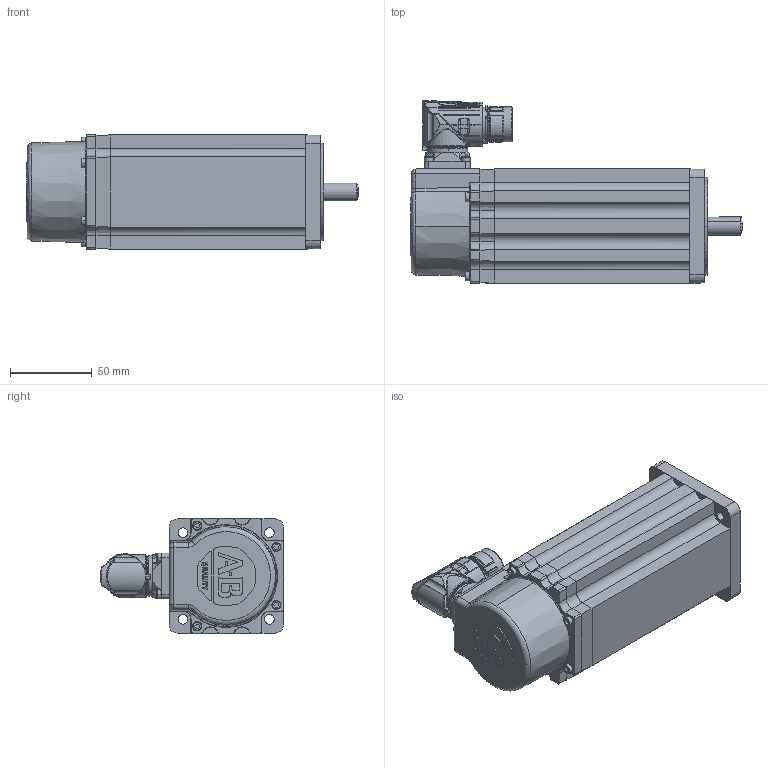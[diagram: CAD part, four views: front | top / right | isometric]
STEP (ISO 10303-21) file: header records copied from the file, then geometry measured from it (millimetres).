
FILE_DESCRIPTION (( 'STEP AP214' ), '1' );
FILE_NAME ('Rockwell Automation-$PARTNUMBER.STEP', '2014-07-25T13:42:51', ( 'Windows User' ), ( '' ), 'SwSTEP 2.0', 'SolidWorks 2014', '' );
FILE_SCHEMA (( 'AUTOMOTIVE_DESIGN' ));
Length unit declared in the file: inch
Products named in the file (29): Rockwell Automation-$PARTNUMBER_Rockwell Automation-VPF-x0752x-xJx4xx_10000210273_AF2_ANY_1; Rockwell Automation-$PARTNUMBER_Rockwell Automation-VPF-x0752x-xJx4xx_10000220495_ASM_1_ANY_ASM; Rockwell Automation-$PARTNUMBER_Rockwell Automation-VPF-x0752x-xJx4xx_10000213398_ANY_1; Rockwell Automation-$PARTNUMBER_Rockwell Automation-VPF-x0752x-xJx4xx_10000206533_AF0_ANY; Rockwell Automation-$PARTNUMBER_Rockwell Automation-VPF-x0752x-xJx4xx_vpl-middle-075_0752-Break; Rockwell Automation-$PARTNUMBER_Rockwell Automation-VPF-x0752x-xJx4xx_10000220495_ASM_ANY; Rockwell Automation-$PARTNUMBER_Rockwell Automation-VPF-x0752x-xJx4xx_10000205606_AF31_ANY; Rockwell Automation-$PARTNUMBER; Rockwell Automation-$PARTNUMBER_Rockwell Automation-VPF-x0752x-xJx4xx_10000218021_ANY; Rockwell Automation-$PARTNUMBER_Rockwell Automation-VPF-x0752x-xJx4xx_91290A115_ANY; Rockwell Automation-$PARTNUMBER_Rockwell Automation-VPF-x0752x-xJx4xx_ASM0003_ASM; Rockwell Automation-$PARTNUMBER_Rockwell Automation-VPF-x0752x-xJx4xx_ASM0004_ASM; Rockwell Automation-$PARTNUMBER_Rockwell Automation-VPF-x0752x-xJx4xx_PRT0008_1; Rockwell Automation-$PARTNUMBER_Rockwell Automation-VPF-x0752x-xJx4xx_PRT0005; Rockwell Automation-$PARTNUMBER_Rockwell Automation-VPF-x0752x-xJx4xx_PRT0007; Rockwell Automation-$PARTNUMBER_Rockwell Automation-VPF-x0752x-xJx4xx_PRT0008; Rockwell Automation-$PARTNUMBER_Rockwell Automation-VPF-x0752x-xJx4xx_PRT0006; Rockwell Automation-$PARTNUMBER_Rockwell Automation-VPF-x0752x-xJx4xx_FRONT_without key_1; Rockwell Automation-$PARTNUMBER_Rockwell Automation-VPF-x0752x-xJx4xx_vpf-075_0752-break; Rockwell Automation-$PARTNUMBER_Rockwell Automation-VPF-x0752x-xJx4xx_FRONT_1; Rockwell Automation-$PARTNUMBER_Rockwell Automation-VPF-x0752x-xJx4xx_FRONT_withkey_075_shaft_Shaft_J_2_4; Rockwell Automation-$PARTNUMBER_Rockwell Automation-VPF-x0752x-xJx4xx_tab; Rockwell Automation-$PARTNUMBER_Rockwell Automation-VPF-x0752x-xJx4xx_0011-G402_ANY_2; Rockwell Automation-$PARTNUMBER_Rockwell Automation-VPF-x0752x-xJx4xx_10000169222_ANY_1; Rockwell Automation-$PARTNUMBER_Rockwell Automation-VPF-x0752x-xJx4xx_REAR_ASM_ANY_ASM; Rockwell Automation-$PARTNUMBER_Rockwell Automation-VPF-x0752x-xJx4xx_10000206536_ASM_ANY_ASM_1; Rockwell Automation-$PARTNUMBER_Rockwell Automation-VPF-x0752x-xJx4xx_PRT0002; Rockwell Automation-$PARTNUMBER_Rockwell Automation-VPF-x0752x-xJx4xx_10000206535_AF0_ANY_1; Rockwell Automation-$PARTNUMBER_Rockwell Automation-VPF-x0752x-xJx4xx_PRT0001
Assembly tree (41 placements, depth 6):
  Rockwell Automation-$PARTNUMBER
    Rockwell Automation-$PARTNUMBER_Rockwell Automation-VPF-x0752x-xJx4xx_vpf-075_0752-break
      Rockwell Automation-$PARTNUMBER_Rockwell Automation-VPF-x0752x-xJx4xx_vpl-middle-075_0752-Break
      Rockwell Automation-$PARTNUMBER_Rockwell Automation-VPF-x0752x-xJx4xx_FRONT_without key_1
        Rockwell Automation-$PARTNUMBER_Rockwell Automation-VPF-x0752x-xJx4xx_FRONT_1
          Rockwell Automation-$PARTNUMBER_Rockwell Automation-VPF-x0752x-xJx4xx_10000213398_ANY_1
          Rockwell Automation-$PARTNUMBER_Rockwell Automation-VPF-x0752x-xJx4xx_10000206536_ASM_ANY_ASM_1
            Rockwell Automation-$PARTNUMBER_Rockwell Automation-VPF-x0752x-xJx4xx_10000210273_AF2_ANY_1
            Rockwell Automation-$PARTNUMBER_Rockwell Automation-VPF-x0752x-xJx4xx_10000206535_AF0_ANY_1
          Rockwell Automation-$PARTNUMBER_Rockwell Automation-VPF-x0752x-xJx4xx_10000169222_ANY_1  x4
      Rockwell Automation-$PARTNUMBER_Rockwell Automation-VPF-x0752x-xJx4xx_REAR_ASM_ANY_ASM
        Rockwell Automation-$PARTNUMBER_Rockwell Automation-VPF-x0752x-xJx4xx_ASM0003_ASM
          Rockwell Automation-$PARTNUMBER_Rockwell Automation-VPF-x0752x-xJx4xx_PRT0006
          Rockwell Automation-$PARTNUMBER_Rockwell Automation-VPF-x0752x-xJx4xx_ASM0004_ASM
            Rockwell Automation-$PARTNUMBER_Rockwell Automation-VPF-x0752x-xJx4xx_PRT0008
            Rockwell Automation-$PARTNUMBER_Rockwell Automation-VPF-x0752x-xJx4xx_PRT0007
            Rockwell Automation-$PARTNUMBER_Rockwell Automation-VPF-x0752x-xJx4xx_PRT0005  x4
            Rockwell Automation-$PARTNUMBER_Rockwell Automation-VPF-x0752x-xJx4xx_PRT0008_1
        Rockwell Automation-$PARTNUMBER_Rockwell Automation-VPF-x0752x-xJx4xx_91290A115_ANY  x4
        Rockwell Automation-$PARTNUMBER_Rockwell Automation-VPF-x0752x-xJx4xx_10000218021_ANY  x2
        Rockwell Automation-$PARTNUMBER_Rockwell Automation-VPF-x0752x-xJx4xx_10000220495_ASM_1_ANY_ASM
          Rockwell Automation-$PARTNUMBER_Rockwell Automation-VPF-x0752x-xJx4xx_10000205606_AF31_ANY
          Rockwell Automation-$PARTNUMBER_Rockwell Automation-VPF-x0752x-xJx4xx_10000220495_ASM_ANY  x2
          Rockwell Automation-$PARTNUMBER_Rockwell Automation-VPF-x0752x-xJx4xx_10000206533_AF0_ANY
        Rockwell Automation-$PARTNUMBER_Rockwell Automation-VPF-x0752x-xJx4xx_PRT0001  x4
        Rockwell Automation-$PARTNUMBER_Rockwell Automation-VPF-x0752x-xJx4xx_PRT0002
      Rockwell Automation-$PARTNUMBER_Rockwell Automation-VPF-x0752x-xJx4xx_0011-G402_ANY_2
      Rockwell Automation-$PARTNUMBER_Rockwell Automation-VPF-x0752x-xJx4xx_FRONT_withkey_075_shaft_Shaft_J_2_4
  Rockwell Automation-$PARTNUMBER_Rockwell Automation-VPF-x0752x-xJx4xx_tab
Bounding box: 203.5 x 112.19 x 70.31 mm (x, y, z)
Volume: 278243.8 mm3; surface area: 177177.7 mm2
Topology: 28 solids, 44 shells, 2961 faces, 8040 edges, 5182 vertices
Faces by surface type: cylinder 994, plane 912, bspline 631, cone 416, torus 8
Entity records: 141241 total; most frequent: CARTESIAN_POINT 71909, ORIENTED_EDGE 12751, DIRECTION 8150, EDGE_CURVE 6389, VERTEX_POINT 4196, AXIS2_PLACEMENT_3D 3049, B_SPLINE_CURVE_WITH_KNOTS 2966, EDGE_LOOP 2502
